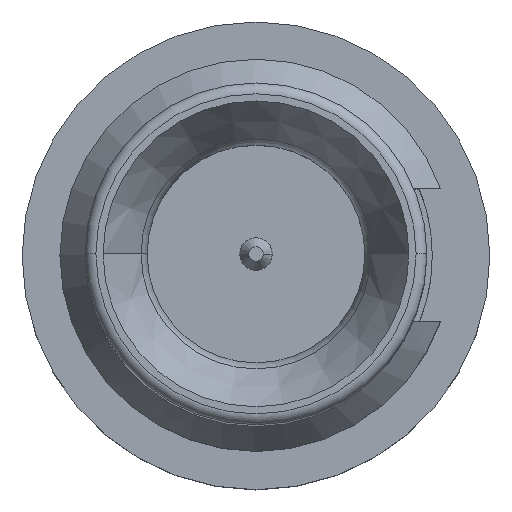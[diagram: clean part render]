
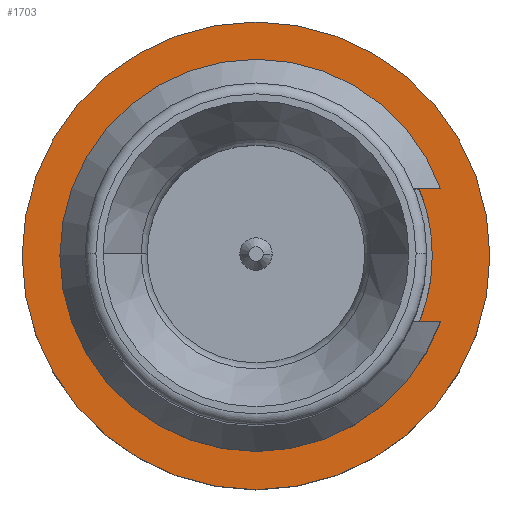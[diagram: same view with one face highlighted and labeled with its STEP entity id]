
A CAD part, top view. The second image highlights one B-rep face of the part: STEP entity #1703.
In plain terms, the highlighted planar face has unit normal (0, 0, 1).
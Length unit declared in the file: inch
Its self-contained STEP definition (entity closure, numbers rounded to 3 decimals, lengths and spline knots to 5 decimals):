
#92 = CIRCLE ( 'NONE', #301, 0.049 ) ;
#95 = CARTESIAN_POINT ( 'NONE',  ( 0.049, 0., -0.007 ) ) ;
#98 = DIRECTION ( 'NONE',  ( 1., 0., 0. ) ) ;
#117 = CARTESIAN_POINT ( 'NONE',  ( 0., 0., -0.007 ) ) ;
#120 = EDGE_CURVE ( 'NONE', #1212, #1203, #603, .T. ) ;
#136 = CIRCLE ( 'NONE', #378, 0.065 ) ;
#182 = ORIENTED_EDGE ( 'NONE', *, *, #1390, .T. ) ;
#245 = DIRECTION ( 'NONE',  ( 0., 0., 1. ) ) ;
#251 = DIRECTION ( 'NONE',  ( 1., 0., 0. ) ) ;
#274 = CARTESIAN_POINT ( 'NONE',  ( 0., 0., -0.007 ) ) ;
#301 = AXIS2_PLACEMENT_3D ( 'NONE', #1035, #570, #1664 ) ;
#344 = EDGE_LOOP ( 'NONE', ( #182, #915 ) ) ;
#348 = DIRECTION ( 'NONE',  ( 0., 0., -1. ) ) ;
#378 = AXIS2_PLACEMENT_3D ( 'NONE', #274, #878, #98 ) ;
#394 = AXIS2_PLACEMENT_3D ( 'NONE', #117, #1802, #1184 ) ;
#500 = FACE_BOUND ( 'NONE', #946, .T. ) ;
#570 = DIRECTION ( 'NONE',  ( 0., 0., 1. ) ) ;
#603 = CIRCLE ( 'NONE', #700, 0.065 ) ;
#631 = PLANE ( 'NONE',  #1224 ) ;
#700 = AXIS2_PLACEMENT_3D ( 'NONE', #1956, #245, #251 ) ;
#740 = ORIENTED_EDGE ( 'NONE', *, *, #1380, .F. ) ;
#837 = CARTESIAN_POINT ( 'NONE',  ( -0.049, 0., -0.007 ) ) ;
#878 = DIRECTION ( 'NONE',  ( 0., 0., 1. ) ) ;
#915 = ORIENTED_EDGE ( 'NONE', *, *, #120, .T. ) ;
#946 = EDGE_LOOP ( 'NONE', ( #740, #1354 ) ) ;
#1033 = VERTEX_POINT ( 'NONE', #95 ) ;
#1035 = CARTESIAN_POINT ( 'NONE',  ( 0., 0., -0.007 ) ) ;
#1063 = VERTEX_POINT ( 'NONE', #837 ) ;
#1103 = DIRECTION ( 'NONE',  ( -1., 0., 0. ) ) ;
#1184 = DIRECTION ( 'NONE',  ( 1., 0., 0. ) ) ;
#1203 = VERTEX_POINT ( 'NONE', #1286 ) ;
#1212 = VERTEX_POINT ( 'NONE', #1604 ) ;
#1224 = AXIS2_PLACEMENT_3D ( 'NONE', #1700, #348, #1103 ) ;
#1286 = CARTESIAN_POINT ( 'NONE',  ( 0.065, 0., -0.007 ) ) ;
#1354 = ORIENTED_EDGE ( 'NONE', *, *, #1364, .F. ) ;
#1364 = EDGE_CURVE ( 'NONE', #1063, #1033, #92, .T. ) ;
#1380 = EDGE_CURVE ( 'NONE', #1033, #1063, #1470, .T. ) ;
#1390 = EDGE_CURVE ( 'NONE', #1203, #1212, #136, .T. ) ;
#1470 = CIRCLE ( 'NONE', #394, 0.049 ) ;
#1604 = CARTESIAN_POINT ( 'NONE',  ( -0.065, 0., -0.007 ) ) ;
#1664 = DIRECTION ( 'NONE',  ( 1., 0., 0. ) ) ;
#1700 = CARTESIAN_POINT ( 'NONE',  ( 0., 0.049, -0.007 ) ) ;
#1703 = ADVANCED_FACE ( 'NONE', ( #500, #1964 ), #631, .F. ) ;
#1802 = DIRECTION ( 'NONE',  ( 0., 0., 1. ) ) ;
#1956 = CARTESIAN_POINT ( 'NONE',  ( 0., 0., -0.007 ) ) ;
#1964 = FACE_OUTER_BOUND ( 'NONE', #344, .T. ) ;
